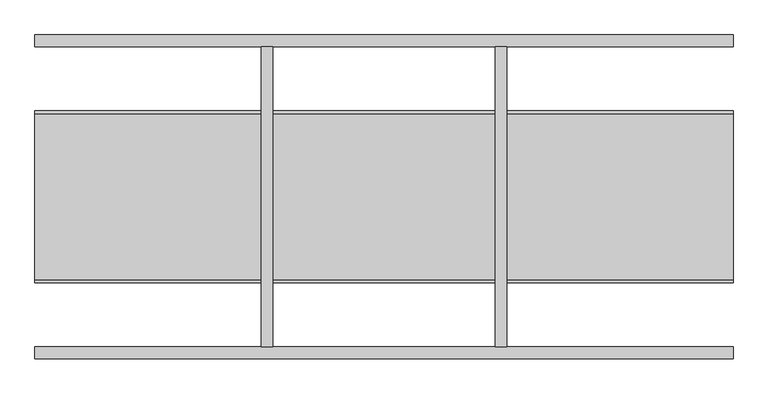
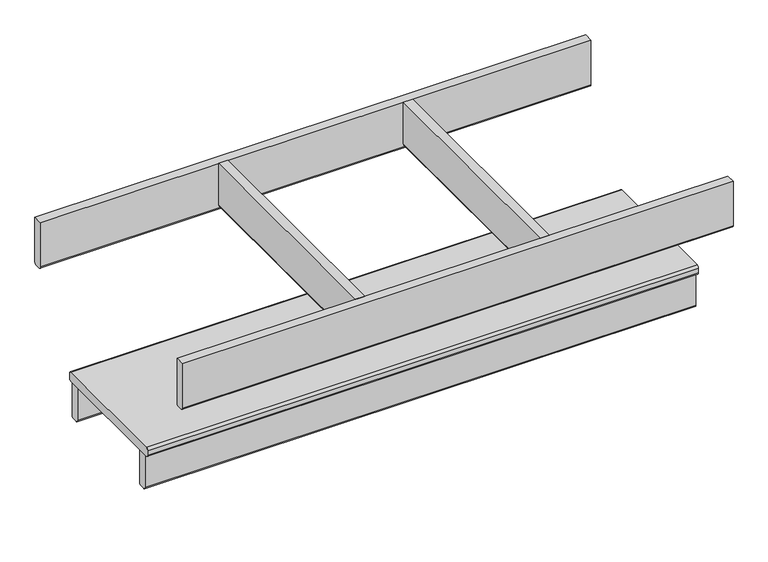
"""IFC4 building model written with IfcOpenShell, lengths in millimetres: furniture geometry, SSL-Childcraft_Outdoor-Table-Rectangle : 2161350."""

from ifc_helpers import new_model, si_unit, point, frame, frame_2d, origin, place, context, project, spatial, polyline, circle_curve, trimmed, segment, composite_curve, outline, extrude, source, transform, mapped, element, save


def furniture_50d7e158(model_context):
    return source(origin(), model_context, "Body", "SweptSolid", [
        extrude(outline(composite_curve([segment(polyline([(488.95, -180.975), (488.95, -200.025), (398.4625, -200.025)]), True, "CONTINUOUS"), segment(trimmed(circle_curve(frame_2d((398.4625, -195.2625)), 4.7625), [point((398.4625, -200.025))], [point((393.7, -195.2625))], False, "CARTESIAN"), True, "CONTINUOUS"), segment(polyline([(393.7, -195.2625), (393.7, -185.7375)]), True, "CONTINUOUS"), segment(trimmed(circle_curve(frame_2d((398.4625, -185.7375)), 4.7625), [point((393.7, -185.7375))], [point((398.4625, -180.975))], False, "CARTESIAN"), True, "CONTINUOUS"), segment(polyline([(398.4625, -180.975), (488.95, -180.975)]), True, "CONTINUOUS")], self_intersect=False)), frame((0.0, -244.475, 0.0), z_axis=(0.0, 1.0, 0.0), x_axis=(0.0, 0.0, 1.0)), (0.0, 0.0, 1.0), 488.9503295),
        extrude(outline(composite_curve([segment(polyline([(488.95, 200.025), (488.95, 180.975), (398.4625, 180.975)]), True, "CONTINUOUS"), segment(trimmed(circle_curve(frame_2d((398.4625, 185.7375)), 4.7625), [point((398.4625, 180.975))], [point((393.7, 185.7375))], False, "CARTESIAN"), True, "CONTINUOUS"), segment(polyline([(393.7, 185.7375), (393.7, 195.2625)]), True, "CONTINUOUS"), segment(trimmed(circle_curve(frame_2d((398.4625, 195.2625)), 4.7625), [point((393.7, 195.2625))], [point((398.4625, 200.025))], False, "CARTESIAN"), True, "CONTINUOUS"), segment(polyline([(398.4625, 200.025), (488.95, 200.025)]), True, "CONTINUOUS")], self_intersect=False)), frame((0.0, -244.475, 0.0), z_axis=(0.0, 1.0, 0.0), x_axis=(0.0, 0.0, 1.0)), (0.0, 0.0, 1.0), 488.9503295),
        extrude(outline(composite_curve([segment(polyline([(209.55, -180.975), (209.55, -200.025), (144.4625, -200.025)]), True, "CONTINUOUS"), segment(trimmed(circle_curve(frame_2d((144.4625, -195.2625)), 4.7625), [point((144.4625, -200.025))], [point((139.7, -195.2625))], False, "CARTESIAN"), True, "CONTINUOUS"), segment(polyline([(139.7, -195.2625), (139.7, -185.7375)]), True, "CONTINUOUS"), segment(trimmed(circle_curve(frame_2d((144.4625, -185.7375)), 4.7625), [point((139.7, -185.7375))], [point((144.4625, -180.975))], False, "CARTESIAN"), True, "CONTINUOUS"), segment(polyline([(144.4625, -180.975), (209.55, -180.975)]), True, "CONTINUOUS")], self_intersect=False)), frame((0.0, -111.1249176, 0.0), z_axis=(0.0, 1.0, 0.0), x_axis=(0.0, 0.0, 1.0)), (0.0, 0.0, 1.0), 222.25),
        extrude(outline(composite_curve([segment(polyline([(209.55, 200.025), (209.55, 180.975), (144.4625, 180.975)]), True, "CONTINUOUS"), segment(trimmed(circle_curve(frame_2d((144.4625, 185.7375)), 4.7625), [point((144.4625, 180.975))], [point((139.7, 185.7375))], False, "CARTESIAN"), True, "CONTINUOUS"), segment(polyline([(139.7, 185.7375), (139.7, 195.2625)]), True, "CONTINUOUS"), segment(trimmed(circle_curve(frame_2d((144.4625, 195.2625)), 4.7625), [point((139.7, 195.2625))], [point((144.4625, 200.025))], False, "CARTESIAN"), True, "CONTINUOUS"), segment(polyline([(144.4625, 200.025), (209.55, 200.025)]), True, "CONTINUOUS")], self_intersect=False)), frame((0.0, -111.1249176, 0.0), z_axis=(0.0, 1.0, 0.0), x_axis=(0.0, 0.0, 1.0)), (0.0, 0.0, 1.0), 222.25),
        extrude(outline(composite_curve([segment(trimmed(circle_curve(frame_2d((-134.9374176, 214.3125)), 4.7625), [point((-134.9374176, 209.55))], [point((-139.6999176, 214.3125))], False, "CARTESIAN"), True, "CONTINUOUS"), segment(polyline([(-139.6999176, 214.3125), (-139.6999176, 223.8375)]), True, "CONTINUOUS"), segment(trimmed(circle_curve(frame_2d((-134.9374176, 223.8375)), 4.7625), [point((-139.6999176, 223.8375))], [point((-134.9374176, 228.6))], False, "CARTESIAN"), True, "CONTINUOUS"), segment(polyline([(-134.9374176, 228.6), (134.9375824, 228.6)]), True, "CONTINUOUS"), segment(trimmed(circle_curve(frame_2d((134.9375824, 223.8375)), 4.7625), [point((134.9375824, 228.6))], [point((139.7000824, 223.8375))], False, "CARTESIAN"), True, "CONTINUOUS"), segment(polyline([(139.7000824, 223.8375), (139.7000824, 214.3125)]), True, "CONTINUOUS"), segment(trimmed(circle_curve(frame_2d((134.9375824, 214.3125)), 4.7625), [point((139.7000824, 214.3125))], [point((134.9375824, 209.55))], False, "CARTESIAN"), True, "CONTINUOUS"), segment(polyline([(134.9375824, 209.55), (-134.9374176, 209.55)]), True, "CONTINUOUS")], self_intersect=False)), frame((-568.325, 0.0, 0.0), z_axis=(1.0, 0.0, 0.0), x_axis=(0.0, 1.0, 0.0)), (0.0, 0.0, 1.0), 1136.65),
        extrude(outline(composite_curve([segment(polyline([(244.4753295, 488.95), (263.5253295, 488.95), (263.5253295, 392.1252)]), True, "CONTINUOUS"), segment(trimmed(circle_curve(frame_2d((258.7501295, 392.1252)), 4.7752), [point((263.5253295, 392.1252))], [point((258.7501295, 387.35))], False, "CARTESIAN"), True, "CONTINUOUS"), segment(polyline([(258.7501295, 387.35), (249.2378295, 387.35)]), True, "CONTINUOUS"), segment(trimmed(circle_curve(frame_2d((249.2378295, 392.1125)), 4.7625), [point((249.2378295, 387.35))], [point((244.4753295, 392.1125))], False, "CARTESIAN"), True, "CONTINUOUS"), segment(polyline([(244.4753295, 392.1125), (244.4753295, 488.95)]), True, "CONTINUOUS")], self_intersect=False)), frame((-568.325, 0.0, 0.0), z_axis=(1.0, 0.0, 0.0), x_axis=(0.0, 1.0, 0.0)), (0.0, 0.0, 1.0), 1136.65),
        extrude(outline(composite_curve([segment(polyline([(-263.525, 488.95), (-244.475, 488.95), (-244.475, 392.1125)]), True, "CONTINUOUS"), segment(trimmed(circle_curve(frame_2d((-249.2375, 392.1125)), 4.7625), [point((-244.475, 392.1125))], [point((-249.2375, 387.35))], False, "CARTESIAN"), True, "CONTINUOUS"), segment(polyline([(-249.2375, 387.35), (-258.7625, 387.35)]), True, "CONTINUOUS"), segment(trimmed(circle_curve(frame_2d((-258.7625, 392.1125)), 4.7625), [point((-258.7625, 387.35))], [point((-263.525, 392.1125))], False, "CARTESIAN"), True, "CONTINUOUS"), segment(polyline([(-263.525, 392.1125), (-263.525, 488.95)]), True, "CONTINUOUS")], self_intersect=False)), frame((-568.325, 0.0, 0.0), z_axis=(1.0, 0.0, 0.0), x_axis=(0.0, 1.0, 0.0)), (0.0, 0.0, 1.0), 1136.65),
        extrude(outline(composite_curve([segment(polyline([(111.1250824, 209.55), (130.1750824, 209.55), (130.1750824, 138.1125)]), True, "CONTINUOUS"), segment(trimmed(circle_curve(frame_2d((125.4125824, 138.1125)), 4.7625), [point((130.1750824, 138.1125))], [point((125.4125824, 133.35))], False, "CARTESIAN"), True, "CONTINUOUS"), segment(polyline([(125.4125824, 133.35), (115.8875824, 133.35)]), True, "CONTINUOUS"), segment(trimmed(circle_curve(frame_2d((115.8875824, 138.1125)), 4.7625), [point((115.8875824, 133.35))], [point((111.1250824, 138.1125))], False, "CARTESIAN"), True, "CONTINUOUS"), segment(polyline([(111.1250824, 138.1125), (111.1250824, 209.55)]), True, "CONTINUOUS")], self_intersect=False)), frame((-568.325, 0.0, 0.0), z_axis=(1.0, 0.0, 0.0), x_axis=(0.0, 1.0, 0.0)), (0.0, 0.0, 1.0), 1136.65),
        extrude(outline(composite_curve([segment(polyline([(-130.1749176, 209.55), (-111.1249176, 209.55), (-111.1249176, 138.1125)]), True, "CONTINUOUS"), segment(trimmed(circle_curve(frame_2d((-115.8874176, 138.1125)), 4.7625), [point((-111.1249176, 138.1125))], [point((-115.8874176, 133.35))], False, "CARTESIAN"), True, "CONTINUOUS"), segment(polyline([(-115.8874176, 133.35), (-125.4124176, 133.35)]), True, "CONTINUOUS"), segment(trimmed(circle_curve(frame_2d((-125.4124176, 138.1125)), 4.7625), [point((-125.4124176, 133.35))], [point((-130.1749176, 138.1125))], False, "CARTESIAN"), True, "CONTINUOUS"), segment(polyline([(-130.1749176, 138.1125), (-130.1749176, 209.55)]), True, "CONTINUOUS")], self_intersect=False)), frame((-568.325, 0.0, 0.0), z_axis=(1.0, 0.0, 0.0), x_axis=(0.0, 1.0, 0.0)), (0.0, 0.0, 1.0), 1136.65),
    ])


if __name__ == "__main__":
    model = new_model("IFC4")
    model_context = context("Model", 3, world=origin())
    ifc_project = project(units=[si_unit("LENGTHUNIT", "METRE", prefix="MILLI")], contexts=[model_context])
    site = spatial("IfcSite", under=ifc_project)
    building = spatial("IfcBuilding", under=site)
    placement = place(None, origin())
    furniture_shape = furniture_50d7e158(model_context)
    element("IfcFurniture", 1, ObjectType="SSL-Childcraft_Outdoor-Table-Rectangle : 2161350", at=placement, inside=building, context=model_context, shape_type="MappedRepresentation", body=[
        mapped(furniture_shape, transform((0.0, 0.0, 0.0), x_axis=(1.0, 0.0, 0.0), y_axis=(0.0, 1.0, 0.0), z_axis=(0.0, 0.0, 1.0))),
    ])
    save(model, "model.ifc")
